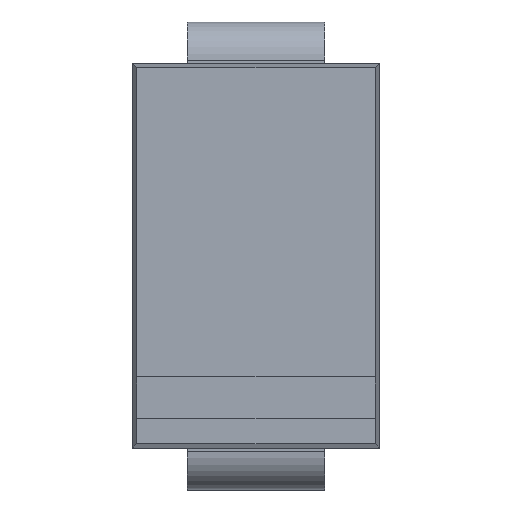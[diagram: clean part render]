
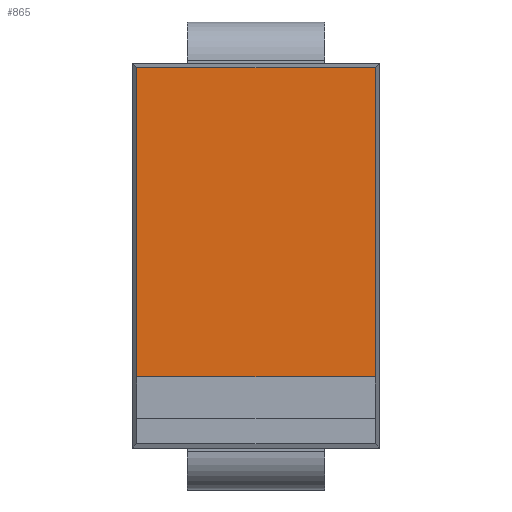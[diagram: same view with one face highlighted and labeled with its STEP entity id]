
A CAD part, top view. The second image highlights one B-rep face of the part: STEP entity #865.
In plain terms, the highlighted planar face has unit normal (0, 0, 1).
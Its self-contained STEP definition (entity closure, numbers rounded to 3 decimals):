
#40=FACE_OUTER_BOUND('',#86,.T.);
#86=EDGE_LOOP('',(#636,#637,#638,#639));
#196=LINE('',#1362,#298);
#198=LINE('',#1366,#300);
#199=LINE('',#1368,#301);
#200=LINE('',#1369,#302);
#298=VECTOR('',#1099,10.);
#300=VECTOR('',#1103,10.);
#301=VECTOR('',#1104,10.);
#302=VECTOR('',#1105,10.);
#404=VERTEX_POINT('',#1359);
#405=VERTEX_POINT('',#1361);
#406=VERTEX_POINT('',#1365);
#407=VERTEX_POINT('',#1367);
#492=EDGE_CURVE('',#404,#405,#196,.T.);
#494=EDGE_CURVE('',#406,#404,#198,.T.);
#495=EDGE_CURVE('',#407,#406,#199,.T.);
#496=EDGE_CURVE('',#407,#405,#200,.F.);
#636=ORIENTED_EDGE('',*,*,#492,.F.);
#637=ORIENTED_EDGE('',*,*,#494,.F.);
#638=ORIENTED_EDGE('',*,*,#495,.F.);
#639=ORIENTED_EDGE('',*,*,#496,.T.);
#784=PLANE('',#941);
#865=ADVANCED_FACE('',(#40),#784,.T.);
#941=AXIS2_PLACEMENT_3D('',#1364,#1101,#1102);
#1099=DIRECTION('',(-1.,0.,0.));
#1101=DIRECTION('center_axis',(0.,0.,1.));
#1102=DIRECTION('ref_axis',(1.,0.,0.));
#1103=DIRECTION('',(0.,-1.,0.));
#1104=DIRECTION('',(1.,0.,0.));
#1105=DIRECTION('',(0.,1.,0.));
#1359=CARTESIAN_POINT('',(1.427,-1.449,2.1));
#1361=CARTESIAN_POINT('',(-1.427,-1.449,2.1));
#1362=CARTESIAN_POINT('',(0.,-1.449,2.1));
#1364=CARTESIAN_POINT('Origin',(0.,0.,2.1));
#1365=CARTESIAN_POINT('',(1.427,2.252,2.1));
#1366=CARTESIAN_POINT('',(1.427,1.15,2.1));
#1367=CARTESIAN_POINT('',(-1.427,2.252,2.1));
#1368=CARTESIAN_POINT('',(-0.738,2.252,2.1));
#1369=CARTESIAN_POINT('',(-1.427,1.15,2.1));
